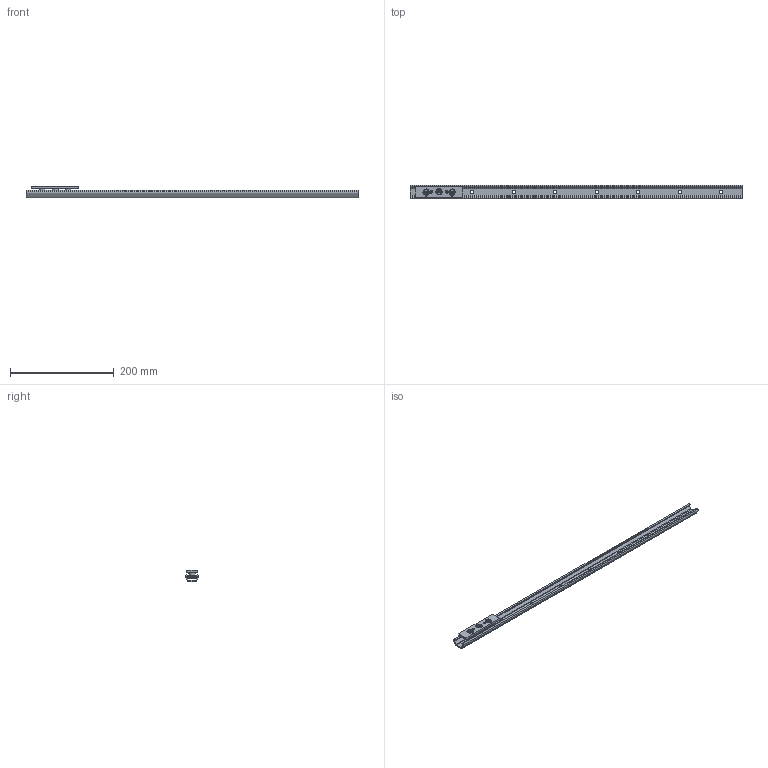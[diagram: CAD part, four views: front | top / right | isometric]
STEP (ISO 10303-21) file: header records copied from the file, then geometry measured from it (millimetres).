
FILE_DESCRIPTION( ( 'STEP AP214' ), '1' );
FILE_NAME( 'p:/temp/worker_19/temp/exporttempdir_83944_353_3ZZxV/format_1/TEN26-0640-CEN26-92.stp', '2020-05-08T18:37:24', ( 'License CC BY-ND 4.0' ), ( 'CADENAS' ), ' ', 'PARTsolutions', ' ' );
FILE_SCHEMA( ( 'AUTOMOTIVE_DESIGN { 1 0 10303 214 1 1 1 1 }' ) );
Length unit declared in the file: millimetre
Products named in the file (6): TEN26-0640-CEN26-92; _TEN 26-640; _CEN26-92_1; _RLN26(11.2_M5); _RLA26(11.2_M5); _LAN-26
Assembly tree (8 placements, depth 2):
  TEN26-0640-CEN26-92
    _TEN 26-640
    _CEN26-92_1
    _RLN26(11.2_M5)  x2
    _RLA26(11.2_M5)
    _LAN-26  x3
Bounding box: 640 x 26 x 22 mm (x, y, z)
Volume: 79751.9 mm3; surface area: 66066.7 mm2
Topology: 8 solids, 8 shells, 241 faces, 525 edges, 327 vertices
Faces by surface type: plane 131, cylinder 77, cone 24, bspline 9
Full cylindrical faces by diameter (mm): 2.5 x2, 4.134 x5, 4.5 x3, 5 x6, 6.5 x8, 9.3 x3, 11.2 x6, 11.6 x6, 15.7 x6, 16.7 x6
Entity records: 5594 total; most frequent: CARTESIAN_POINT 825, DIRECTION 760, ORIENTED_EDGE 566, AXIS2_PLACEMENT_3D 316, EDGE_CURVE 283, EDGE_LOOP 264, VERTEX_POINT 213, FACE_OUTER_BOUND 200
